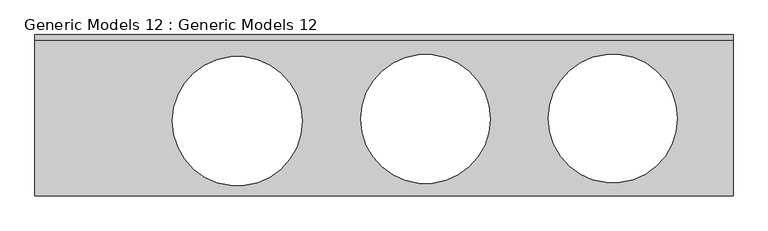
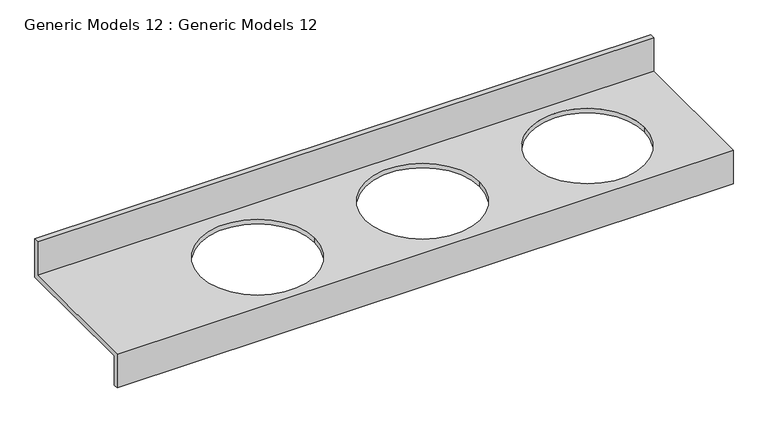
"""IFC4 building model written with IfcOpenShell, lengths in millimetres: proxy geometry, Generic Models 12 : Generic Models 12."""

import ifcopenshell
import ifcopenshell.guid

model = None  # the IFC model being written
_history = None  # IfcOwnerHistory: only IFC2X3 demands one
_inside = {}  # id of a spatial element -> (the spatial element, [elements in it])
_under = {}  # id of a project, library or spatial element -> (it, [spatial elements below it])
_declared = {}  # id of a project -> (the project, [libraries it declares])
_typed = {}  # id of a type object -> (the type object, [elements of that type])
_made_of = {}  # id of a material, layer set ... -> (it, [elements and type objects made of it])


def new_model(schema):
    """Start an empty IFC model of exactly this schema.

    Asked for "IFC4X3", IfcOpenShell would pick the latest addendum, in which some entities
    have other attributes; the version numbers below select the first issue.
    IFC2X3 requires an IfcOwnerHistory on every rooted entity: one is made here for all.
    """
    global model, _history
    if schema == "IFC4X3":
        model = ifcopenshell.file(schema_version=(4, 3, 0, 0))
    else:
        model = ifcopenshell.file(schema=schema)
    _inside.clear()
    _under.clear()
    _declared.clear()
    _typed.clear()
    _made_of.clear()
    _history = None
    if model.schema == "IFC2X3":
        org = make("IfcOrganization", Name="unknown")
        user = make(
            "IfcPersonAndOrganization",
            ThePerson=make("IfcPerson", FamilyName="unknown"),
            TheOrganization=org,
        )
        app = make(
            "IfcApplication",
            ApplicationDeveloper=org,
            Version="unknown",
            ApplicationFullName="unknown",
            ApplicationIdentifier="unknown",
        )
        _history = make(
            "IfcOwnerHistory",
            OwningUser=user,
            OwningApplication=app,
            ChangeAction="ADDED",
            CreationDate=0,
        )
    return model


def make(cls, **values):
    """One entity of the class cls with the attributes given. An attribute that is None is left unset."""
    return model.create_entity(
        cls, **{name: value for name, value in values.items() if value is not None}
    )


def rooted(cls, **values):
    """An entity with a GlobalId (a new one), such as an element, a storey or a relation."""
    return make(cls, GlobalId=ifcopenshell.guid.new(), OwnerHistory=_history, **values)


def si_unit(unit_type, name, prefix=None):
    """IfcSIUnit, for example si_unit("LENGTHUNIT", "METRE", prefix="MILLI")."""
    return make("IfcSIUnit", UnitType=unit_type, Prefix=prefix, Name=name)


def assignment(units):
    """IfcUnitAssignment: the units of a project."""
    return None if units is None else make("IfcUnitAssignment", Units=units)


def point(xyz):
    """IfcCartesianPoint."""
    return None if xyz is None else make("IfcCartesianPoint", Coordinates=xyz)


def direction(xyz):
    """IfcDirection."""
    return None if xyz is None else make("IfcDirection", DirectionRatios=xyz)


def frame(location, z_axis=None, x_axis=None):
    """IfcAxis2Placement3D, a coordinate frame: its origin and axes. An axis left out is left unset."""
    return make(
        "IfcAxis2Placement3D",
        Location=point(location),
        Axis=direction(z_axis),
        RefDirection=direction(x_axis),
    )


def origin():
    """The frame at (0, 0, 0) with its axes left unset."""
    return frame((0.0, 0.0, 0.0))


def place(relative_to, where):
    """IfcLocalPlacement: puts the frame where relative to a parent placement (None: the world)."""
    return make(
        "IfcLocalPlacement", PlacementRelTo=relative_to, RelativePlacement=where
    )


def context(
    kind, dimensions, precision=None, world=None, true_north=None, identifier=None
):
    """IfcGeometricRepresentationContext, for example the 3D "Model" context."""
    return make(
        "IfcGeometricRepresentationContext",
        ContextIdentifier=identifier,
        ContextType=kind,
        CoordinateSpaceDimension=dimensions,
        Precision=precision,
        WorldCoordinateSystem=world,
        TrueNorth=true_north,
    )


def project(units=None, contexts=None):
    """IfcProject with its units and contexts."""
    return rooted(
        "IfcProject",
        Name="project",
        RepresentationContexts=contexts,
        UnitsInContext=assignment(units),
    )


def spatial(cls, under=None, at=None, **own):
    """A site, building, storey or space (cls), placed at a placement, below another one or the project."""
    s = rooted(cls, ObjectPlacement=at, **own)
    if under is not None:
        _under.setdefault(under.id(), (under, []))[1].append(s)
    return s


def polyline(points):
    """IfcPolyline through the points."""
    return make("IfcPolyline", Points=[point(p) for p in points])


def circle_curve(where, radius):
    """IfcCircle in the frame where."""
    return make("IfcCircle", Position=where, Radius=radius)


def shape(context_of_items, identifier, shape_type, items):
    """IfcShapeRepresentation: the items that make up one representation, for example the "Body"."""
    return make(
        "IfcShapeRepresentation",
        ContextOfItems=context_of_items,
        RepresentationIdentifier=identifier,
        RepresentationType=shape_type,
        Items=items,
    )


def source(mapping_origin, context_of_items, identifier, shape_type, items):
    """IfcRepresentationMap: a shape defined once, which mapped items show again and again."""
    return make(
        "IfcRepresentationMap",
        MappingOrigin=mapping_origin,
        MappedRepresentation=shape(context_of_items, identifier, shape_type, items),
    )


def transform(
    local_origin,
    x_axis=None,
    y_axis=None,
    z_axis=None,
    scale=None,
    scale2=None,
    scale3=None,
    uniform=True,
):
    """IfcCartesianTransformationOperator3D, or its non-uniform kind. x_axis, y_axis, z_axis: its Axis1, 2, 3."""
    if uniform:
        return make(
            "IfcCartesianTransformationOperator3D",
            Axis1=direction(x_axis),
            Axis2=direction(y_axis),
            LocalOrigin=point(local_origin),
            Scale=scale,
            Axis3=direction(z_axis),
        )
    return make(
        "IfcCartesianTransformationOperator3DnonUniform",
        Axis1=direction(x_axis),
        Axis2=direction(y_axis),
        LocalOrigin=point(local_origin),
        Scale=scale,
        Axis3=direction(z_axis),
        Scale2=scale2,
        Scale3=scale3,
    )


def mapped(mapping_source, mapping_target):
    """IfcMappedItem: shows the shape of a source again, moved by a transform."""
    return make(
        "IfcMappedItem", MappingSource=mapping_source, MappingTarget=mapping_target
    )


def made_of(thing, what):
    """Note that an element or type object is made of a material, layer set ...; save() writes the relation."""
    if what is not None:
        _made_of.setdefault(what.id(), (what, []))[1].append(thing)
    return thing


def element(
    cls,
    number,
    at=None,
    inside=None,
    cuts=None,
    type_object=None,
    material=None,
    context=None,
    identifier="Body",
    shape_type=None,
    held_by="IfcProductDefinitionShape",
    body=None,
    shapes=None,
    **own,
):
    """One element of the class cls, such as IfcWall. Its Tag is "e" and its number.

    at: its placement. inside: the storey or other place that contains it. cuts: it is an
    opening in that element (IfcRelVoidsElement). A single representation is given by context,
    identifier, shape_type and body (its items); several are given by shapes. held_by: the class
    of the entity that holds the representations. save() writes the other relations.
    """
    e = rooted(cls, Tag="e%d" % number, ObjectPlacement=at, **own)
    if body is not None:
        shapes = [shape(context, identifier, shape_type, body)]
    if shapes is not None:
        e.Representation = make(held_by, Representations=shapes)
    if inside is not None:
        _inside.setdefault(inside.id(), (inside, []))[1].append(e)
    if cuts is not None:
        rooted(
            "IfcRelVoidsElement", RelatingBuildingElement=cuts, RelatedOpeningElement=e
        )
    if type_object is not None:
        _typed.setdefault(type_object.id(), (type_object, []))[1].append(e)
    return made_of(e, material)


def aggregate(whole, parts):
    """IfcRelAggregates: a whole, such as a stair, and the parts it consists of."""
    return rooted("IfcRelAggregates", RelatingObject=whole, RelatedObjects=parts)


def save(model, path):
    """Write the relations noted so far, then the file.

    IfcRelAggregates (storeys below a building ...), IfcRelContainedInSpatialStructure (elements
    in a storey), IfcRelDefinesByType, IfcRelAssociatesMaterial and IfcRelDeclares: one each for
    every whole, place, type object, material and project.
    """
    for whole, parts in _under.values():
        aggregate(whole, parts)
    for where, things in _inside.values():
        rooted(
            "IfcRelContainedInSpatialStructure",
            RelatedElements=things,
            RelatingStructure=where,
        )
    for kind, things in _typed.values():
        rooted("IfcRelDefinesByType", RelatedObjects=things, RelatingType=kind)
    for what, things in _made_of.values():
        rooted("IfcRelAssociatesMaterial", RelatedObjects=things, RelatingMaterial=what)
    for by, libraries in _declared.values():
        rooted("IfcRelDeclares", RelatingContext=by, RelatedDefinitions=libraries)
    model.write(path)


def plane_surface(at):
    """IfcPlane: the flat surface through the origin of the frame at, square to its z axis."""
    return make("IfcPlane", Position=at)


def revolved_surface(curve, axis_point, axis_direction):
    """IfcSurfaceOfRevolution: the curve turned about the line through axis_point along axis_direction."""
    return make(
        "IfcSurfaceOfRevolution",
        SweptCurve=make("IfcArbitraryOpenProfileDef", ProfileType="CURVE", Curve=curve),
        AxisPosition=make("IfcAxis1Placement", Location=point(axis_point), Axis=direction(axis_direction)),
    )


def advanced_brep(points, edges, surfaces, faces):
    """IfcAdvancedBrep: a solid bounded by faces that lie on surfaces and meet in shared edges.

    An edge is (start, end): straight between two places in points (the first is 0);
    or (start, end, curve); or (start, end, curve, False) where it runs against its curve.
    A face is (place in surfaces, loops), or (place, loops, False) where it looks against
    its surface's normal. A loop lists edges by number (the first is 1), with a minus sign
    where the edge is run from its end to its start. The first loop is the outer one.
    """
    corners = [point(p) for p in points]
    vertices = [make("IfcVertexPoint", VertexGeometry=c) for c in corners]
    made = []
    for start, end, *more in edges:
        made.append(
            make(
                "IfcEdgeCurve",
                EdgeStart=vertices[start],
                EdgeEnd=vertices[end],
                EdgeGeometry=more[0] if more else make("IfcPolyline", Points=[corners[start], corners[end]]),
                SameSense=more[1] if len(more) > 1 else True,
            )
        )
    hull = []
    for where, loops, *sense in faces:
        bounds = []
        for j, loop in enumerate(loops):
            ring = [make("IfcOrientedEdge", EdgeElement=made[abs(k) - 1], Orientation=k > 0) for k in loop]
            bounds.append(
                make(
                    "IfcFaceOuterBound" if j == 0 else "IfcFaceBound",
                    Bound=make("IfcEdgeLoop", EdgeList=ring),
                    Orientation=True,
                )
            )
        hull.append(make("IfcAdvancedFace", Bounds=bounds, FaceSurface=surfaces[where], SameSense=sense[0] if sense else True))
    return make("IfcAdvancedBrep", Outer=make("IfcClosedShell", CfsFaces=hull))


def generic_models_12_generic_models_12_b60a1163(model_context):
    return source(origin(), model_context, "Body", "AdvancedBrep", [
        advanced_brep(
        [(-7217.2739616, -13264.5871375, 900.0), (-7217.2739616, -12684.5871375, 900.0), (-7217.2739616, -12684.5871375, 1050.0), (-7217.2739616, -12664.5871375, 1050.0), (-7217.2739616, -12664.5871375, 880.0), (-7217.2739616, -13244.5871375, 880.0), (-7217.2739616, -13244.5871375, 750.0), (-7217.2739616, -13264.5871375, 750.0), (-4619.6912899, -13264.5871375, 900.0), (-4619.6912899, -12684.5871375, 900.0), (-5522.8496923, -12978.4717289, 900.0), (-6005.4496923, -12978.4717289, 900.0), (-6222.8496923, -12986.1379094, 900.0), (-6705.4496923, -12986.1379094, 900.0), (-4827.1796596, -12976.1724098, 900.0), (-5307.1796596, -12976.1724098, 900.0), (-4619.6912899, -12684.5871375, 1050.0), (-4619.6912899, -12664.5871375, 1050.0), (-4619.6912899, -12664.5871375, 880.0), (-4619.6912899, -13244.5871375, 880.0), (-6005.4496923, -12978.4717289, 880.0), (-5522.8496923, -12978.4717289, 880.0), (-6705.4496923, -12986.1379094, 880.0), (-6222.8496923, -12986.1379094, 880.0), (-5307.1796596, -12976.1724098, 880.0), (-4827.1796596, -12976.1724098, 880.0), (-4619.6912899, -13244.5871375, 750.0), (-4619.6912899, -13264.5871375, 750.0)],
        [
            (0, 1),
            (1, 2),
            (2, 3),
            (3, 4),
            (4, 5),
            (5, 6),
            (6, 7),
            (7, 0),
            (0, 8),
            (8, 9),
            (9, 1),
            (10, 11, circle_curve(frame((-5764.1496923, -12978.4717289, 900.0), z_axis=(0.0, 0.0, -1.0), x_axis=(0.0, -1.0, 0.0)), 241.3)),
            (11, 10, circle_curve(frame((-5764.1496923, -12978.4717289, 900.0), z_axis=(0.0, 0.0, -1.0), x_axis=(0.0, -1.0, 0.0)), 241.3)),
            (12, 13, circle_curve(frame((-6464.1496923, -12986.1379094, 900.0), z_axis=(0.0, 0.0, -1.0), x_axis=(0.0, -1.0, 0.0)), 241.3)),
            (13, 12, circle_curve(frame((-6464.1496923, -12986.1379094, 900.0), z_axis=(0.0, 0.0, -1.0), x_axis=(0.0, -1.0, 0.0)), 241.3)),
            (14, 15, circle_curve(frame((-5067.1796596, -12976.1724098, 900.0), z_axis=(0.0, 0.0, -1.0), x_axis=(0.0, -1.0, 0.0)), 240.0)),
            (15, 14, circle_curve(frame((-5067.1796596, -12976.1724098, 900.0), z_axis=(0.0, 0.0, -1.0), x_axis=(0.0, -1.0, 0.0)), 240.0)),
            (9, 16),
            (16, 2),
            (16, 17),
            (17, 3),
            (17, 18),
            (18, 4),
            (18, 19),
            (19, 5),
            (20, 21, circle_curve(frame((-5764.1496923, -12978.4717289, 880.0), z_axis=(0.0, 0.0, 1.0), x_axis=(0.0, -1.0, 0.0)), 241.3)),
            (21, 20, circle_curve(frame((-5764.1496923, -12978.4717289, 880.0), z_axis=(0.0, 0.0, 1.0), x_axis=(0.0, -1.0, 0.0)), 241.3)),
            (22, 23, circle_curve(frame((-6464.1496923, -12986.1379094, 880.0), z_axis=(0.0, 0.0, 1.0), x_axis=(0.0, -1.0, 0.0)), 241.3)),
            (23, 22, circle_curve(frame((-6464.1496923, -12986.1379094, 880.0), z_axis=(0.0, 0.0, 1.0), x_axis=(0.0, -1.0, 0.0)), 241.3)),
            (24, 25, circle_curve(frame((-5067.1796596, -12976.1724098, 880.0), z_axis=(0.0, 0.0, 1.0), x_axis=(0.0, -1.0, 0.0)), 240.0)),
            (25, 24, circle_curve(frame((-5067.1796596, -12976.1724098, 880.0), z_axis=(0.0, 0.0, 1.0), x_axis=(0.0, -1.0, 0.0)), 240.0)),
            (19, 26),
            (26, 6),
            (26, 27),
            (27, 7),
            (27, 8),
            (10, 21),
            (20, 11),
            (12, 23),
            (22, 13),
            (14, 25),
            (24, 15),
        ],
        [
            plane_surface(frame((-7217.2739616, -12664.5871375, 900.0), z_axis=(-1.0, 0.0, 0.0), x_axis=(0.0, 0.0, 1.0))),
            plane_surface(frame((-7217.2739616, -13264.5871375, 900.0), z_axis=(0.0, 0.0, 1.0), x_axis=(1.0, 0.0, 0.0))),
            plane_surface(frame((-7217.2739616, -12684.5871375, 900.0), z_axis=(0.0, -1.0, 0.0), x_axis=(1.0, 0.0, 0.0))),
            plane_surface(frame((-7217.2739616, -12684.5871375, 1050.0), z_axis=(0.0, 0.0, 1.0), x_axis=(1.0, 0.0, 0.0))),
            plane_surface(frame((-7217.2739616, -12664.5871375, 1050.0), z_axis=(0.0, 1.0, 0.0), x_axis=(1.0, 0.0, 0.0))),
            plane_surface(frame((-7217.2739616, -12664.5871375, 880.0), z_axis=(0.0, 0.0, -1.0), x_axis=(1.0, 0.0, 0.0))),
            plane_surface(frame((-7217.2739616, -13244.5871375, 880.0), z_axis=(0.0, 1.0, 0.0), x_axis=(1.0, 0.0, 0.0))),
            plane_surface(frame((-7217.2739616, -13244.5871375, 750.0), z_axis=(0.0, 0.0, -1.0), x_axis=(1.0, 0.0, 0.0))),
            plane_surface(frame((-7217.2739616, -13264.5871375, 750.0), z_axis=(0.0, -1.0, 0.0), x_axis=(1.0, 0.0, 0.0))),
            plane_surface(frame((-4619.6912899, -12664.5871375, 900.0), z_axis=(1.0, 0.0, 0.0), x_axis=(0.0, 0.0, 1.0))),
            revolved_surface(polyline([(-5764.1496923, -13219.7717289, 880.0), (-5764.1496923, -13219.7717289, 900.0)]), (-5764.1496923, -12978.4717289, 900.0), (0.0, 0.0, -1.0)),
            revolved_surface(polyline([(-6464.1496923, -13227.4379094, 880.0), (-6464.1496923, -13227.4379094, 900.0)]), (-6464.1496923, -12986.1379094, 900.0), (0.0, 0.0, -1.0)),
            revolved_surface(polyline([(-5067.1796596, -13216.1724098, 880.0), (-5067.1796596, -13216.1724098, 900.0)]), (-5067.1796596, -12976.1724098, 900.0), (0.0, 0.0, -1.0)),
        ],
        [
            (0, [[1, 2, 3, 4, 5, 6, 7, 8]]),
            (1, [[-1, 9, 10, 11], [12, 13], [14, 15], [16, 17]]),
            (2, [[-2, -11, 18, 19]]),
            (3, [[-3, -19, 20, 21]]),
            (4, [[-4, -21, 22, 23]]),
            (5, [[-5, -23, 24, 25], [26, 27], [28, 29], [30, 31]]),
            (6, [[-6, -25, 32, 33]]),
            (7, [[-7, -33, 34, 35]]),
            (8, [[-8, -35, 36, -9]]),
            (9, [[-10, -36, -34, -32, -24, -22, -20, -18]]),
            (10, [[37, -26, 38, -12]]),
            (10, [[-37, -13, -38, -27]]),
            (11, [[39, -28, 40, -14]]),
            (11, [[-39, -15, -40, -29]]),
            (12, [[41, -30, 42, -16]]),
            (12, [[-41, -17, -42, -31]]),
        ],
    ),
    ])


if __name__ == "__main__":
    model = new_model("IFC4")
    model_context = context("Model", 3, world=origin())
    ifc_project = project(units=[si_unit("LENGTHUNIT", "METRE", prefix="MILLI")], contexts=[model_context])
    site = spatial("IfcSite", under=ifc_project)
    building = spatial("IfcBuilding", under=site)
    placement = place(None, origin())
    generic_models_12_generic_models_12_shape = generic_models_12_generic_models_12_b60a1163(model_context)
    element("IfcBuildingElementProxy", 1, Name="Generic Models 12 : Generic Models 12", ObjectType="Generic Models 12 : Generic Models 12", at=placement, inside=building, context=model_context, shape_type="MappedRepresentation", body=[
        mapped(generic_models_12_generic_models_12_shape, transform((0.0, 0.0, 0.0), x_axis=(1.0, 0.0, 0.0), y_axis=(0.0, 1.0, 0.0), z_axis=(0.0, 0.0, 1.0))),
    ])
    save(model, "model.ifc")
